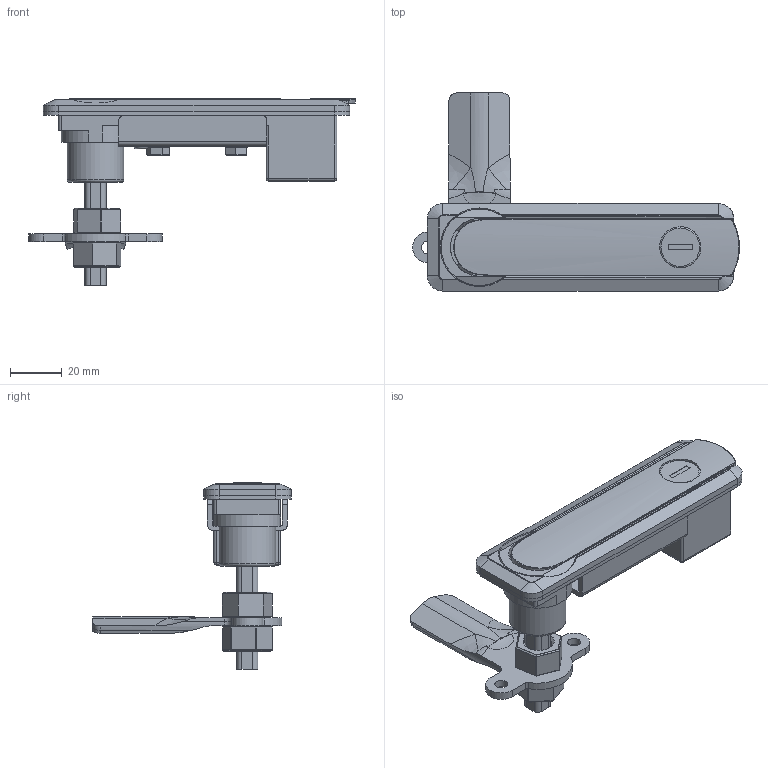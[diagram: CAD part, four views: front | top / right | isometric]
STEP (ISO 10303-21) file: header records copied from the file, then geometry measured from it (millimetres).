
FILE_DESCRIPTION(/* description */ (''),/* implementation_level */ '2;1');
FILE_NAME(/* name */ '\\NAS\db20\MG-403\DR_MG-403.stp',/* time_stamp */ '2020-12-08T16:13:40+09:00',/* author */ ('user'),/* organization */ (''),/* preprocessor_version */ 'ST-DEVELOPER v15.6',/* originating_system */ 'Autodesk Inventor 2015',/* authorisation */ '');
FILE_SCHEMA (('AUTOMOTIVE_DESIGN { 1 0 10303 214 3 1 1 }'));
Length unit declared in the file: millimetre
Products named in the file (8): DR_MG-403; DR_MG-403-H; DR_MG-403-HH; DR_너트; DR_볼트; DR_핸들브라켓; DR_홀더2
Bounding box: 127 x 77 x 72.5 mm (x, y, z)
Volume: 66910.5 mm3; surface area: 52712.4 mm2
Topology: 17 solids, 17 shells, 676 faces, 1579 edges, 944 vertices
Faces by surface type: plane 311, cylinder 213, sphere 60, bspline 50, torus 28, cone 14
Full cylindrical faces by diameter (mm): 2.459 x1, 4 x3, 4.134 x2, 5 x6, 5.5 x2, 5.558 x2, 6.5 x1, 8.558 x2, 9.5 x2, 10 x2, 15 x2, 16 x3, 19 x1, 19.5 x1, 22 x1, 24 x1
Entity records: 16789 total; most frequent: CARTESIAN_POINT 4262, DIRECTION 2587, ORIENTED_EDGE 2492, EDGE_CURVE 1246, AXIS2_PLACEMENT_3D 942, VERTEX_POINT 782, LINE 703, VECTOR 703
